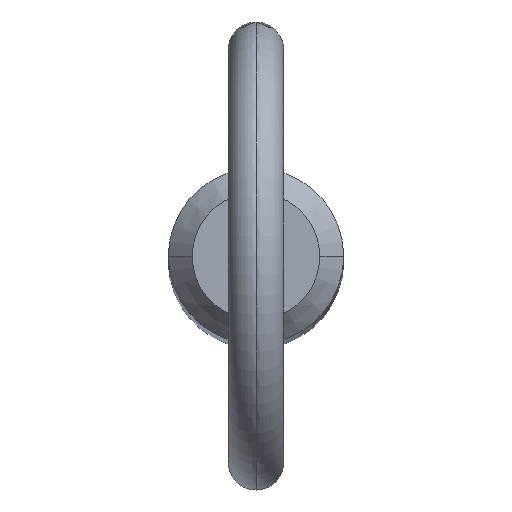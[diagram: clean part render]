
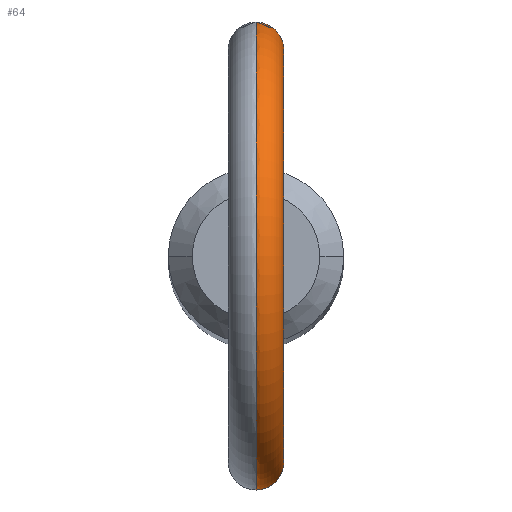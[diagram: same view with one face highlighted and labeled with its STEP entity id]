
A CAD part, top view. The second image highlights one B-rep face of the part: STEP entity #64.
In plain terms, the highlighted toroidal (fillet/blend) face has major radius 11.2 mm and minor radius 1.5 mm.
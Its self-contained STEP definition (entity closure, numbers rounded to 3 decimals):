
#3 = CARTESIAN_POINT ( 'NONE',  ( 0., -4.76, 135.526 ) ) ;
#4 = FACE_OUTER_BOUND ( 'NONE', #169, .T. ) ;
#6 = CARTESIAN_POINT ( 'NONE',  ( 0., 4.76, 138.848 ) ) ;
#7 = EDGE_CURVE ( 'NONE', #252, #464, #39, .T. ) ;
#9 = CARTESIAN_POINT ( 'NONE',  ( 0.415, 4.745, 138.788 ) ) ;
#11 = TOROIDAL_SURFACE ( 'NONE', #435, 11.2, 1.5 ) ;
#13 = CARTESIAN_POINT ( 'NONE',  ( 0., 0., 147.3 ) ) ;
#15 = CARTESIAN_POINT ( 'NONE',  ( 1.292, 4.582, 137.944 ) ) ;
#17 = CARTESIAN_POINT ( 'NONE',  ( 0.411, 4.743, 135.577 ) ) ;
#18 = CARTESIAN_POINT ( 'NONE',  ( 0.795, 4.697, 135.728 ) ) ;
#19 = AXIS2_PLACEMENT_3D ( 'NONE', #267, #434, #74 ) ;
#24 = CIRCLE ( 'NONE', #19, 12.7 ) ;
#33 = CARTESIAN_POINT ( 'NONE',  ( 0.797, -4.697, 135.729 ) ) ;
#37 = CARTESIAN_POINT ( 'NONE',  ( 1.503, -4.517, 137.04 ) ) ;
#39 = B_SPLINE_CURVE_WITH_KNOTS ( 'NONE', 3,
 ( #357, #439, #527, #393, #521, #230, #398, #152, #269, #272, #40, #479, #309, #158, #192, #37, #519, #264, #44, #312, #480, #355, #227, #350, #33, #302, #78, #121, #394, #523 ),
 .UNSPECIFIED., .F., .F.,
 ( 4, 2, 2, 2, 2, 2, 2, 2, 2, 2, 2, 2, 2, 2, 4 ),
 ( 0.004, 0.005, 0.005, 0.005, 0.006, 0.006, 0.007, 0.007, 0.007, 0.007, 0.008, 0.008, 0.009, 0.009, 0.009 ),
 .UNSPECIFIED. ) ;
#40 = CARTESIAN_POINT ( 'NONE',  ( 1.293, -4.582, 137.942 ) ) ;
#44 = CARTESIAN_POINT ( 'NONE',  ( 1.45, -4.534, 136.628 ) ) ;
#51 = CARTESIAN_POINT ( 'NONE',  ( 0.511, 4.733, 135.608 ) ) ;
#64 = ADVANCED_FACE ( 'NONE', ( #4 ), #11, .T. ) ;
#74 = DIRECTION ( 'NONE',  ( 0., 0., -1. ) ) ;
#78 = CARTESIAN_POINT ( 'NONE',  ( 0.411, -4.743, 135.577 ) ) ;
#92 = CARTESIAN_POINT ( 'NONE',  ( 0., 0., 147.3 ) ) ;
#97 = CARTESIAN_POINT ( 'NONE',  ( 0.685, 4.711, 138.636 ) ) ;
#101 = CARTESIAN_POINT ( 'NONE',  ( 1.508, 4.515, 136.937 ) ) ;
#102 = CARTESIAN_POINT ( 'NONE',  ( 0.104, 4.76, 135.526 ) ) ;
#121 = CARTESIAN_POINT ( 'NONE',  ( 0.208, -4.757, 135.536 ) ) ;
#131 = CARTESIAN_POINT ( 'NONE',  ( 0.996, 4.655, 138.366 ) ) ;
#143 = ORIENTED_EDGE ( 'NONE', *, *, #323, .F. ) ;
#152 = CARTESIAN_POINT ( 'NONE',  ( 0.925, -4.67, 138.439 ) ) ;
#158 = CARTESIAN_POINT ( 'NONE',  ( 1.478, -4.525, 137.352 ) ) ;
#168 = CARTESIAN_POINT ( 'NONE',  ( 0.207, 4.757, 135.536 ) ) ;
#169 = EDGE_LOOP ( 'NONE', ( #143, #526, #294, #503 ) ) ;
#170 = CARTESIAN_POINT ( 'NONE',  ( 0.968, 4.663, 135.849 ) ) ;
#172 = CARTESIAN_POINT ( 'NONE',  ( 1.188, 4.611, 138.127 ) ) ;
#192 = CARTESIAN_POINT ( 'NONE',  ( 1.492, -4.52, 137.248 ) ) ;
#199 = CARTESIAN_POINT ( 'NONE',  ( 0., 4.76, 138.848 ) ) ;
#200 = CARTESIAN_POINT ( 'NONE',  ( 1.441, 4.537, 137.559 ) ) ;
#205 = CARTESIAN_POINT ( 'NONE',  ( 0.208, 4.76, 138.848 ) ) ;
#214 = EDGE_CURVE ( 'NONE', #261, #464, #24, .T. ) ;
#227 = CARTESIAN_POINT ( 'NONE',  ( 1.178, -4.613, 136.076 ) ) ;
#230 = CARTESIAN_POINT ( 'NONE',  ( 0.687, -4.711, 138.635 ) ) ;
#242 = CARTESIAN_POINT ( 'NONE',  ( 1.239, 4.596, 136.159 ) ) ;
#244 = DIRECTION ( 'NONE',  ( 0., 0., -1. ) ) ;
#252 = VERTEX_POINT ( 'NONE', #391 ) ;
#261 = VERTEX_POINT ( 'NONE', #388 ) ;
#264 = CARTESIAN_POINT ( 'NONE',  ( 1.473, -4.526, 136.731 ) ) ;
#267 = CARTESIAN_POINT ( 'NONE',  ( 0., 0., 147.3 ) ) ;
#269 = CARTESIAN_POINT ( 'NONE',  ( 0.997, -4.655, 138.364 ) ) ;
#272 = CARTESIAN_POINT ( 'NONE',  ( 1.19, -4.611, 138.124 ) ) ;
#276 = DIRECTION ( 'NONE',  ( 1., 0., 0. ) ) ;
#277 = CARTESIAN_POINT ( 'NONE',  ( 0., 4.76, 135.526 ) ) ;
#294 = ORIENTED_EDGE ( 'NONE', *, *, #7, .F. ) ;
#302 = CARTESIAN_POINT ( 'NONE',  ( 0.512, -4.733, 135.608 ) ) ;
#305 = CIRCLE ( 'NONE', #418, 9.7 ) ;
#309 = CARTESIAN_POINT ( 'NONE',  ( 1.434, -4.539, 137.554 ) ) ;
#312 = CARTESIAN_POINT ( 'NONE',  ( 1.385, -4.554, 136.432 ) ) ;
#323 = EDGE_CURVE ( 'NONE', #261, #466, #475, .T. ) ;
#324 = CARTESIAN_POINT ( 'NONE',  ( 1.177, 4.613, 136.075 ) ) ;
#331 = CARTESIAN_POINT ( 'NONE',  ( 0.925, 4.67, 138.44 ) ) ;
#334 = CARTESIAN_POINT ( 'NONE',  ( 1.484, 4.523, 136.728 ) ) ;
#350 = CARTESIAN_POINT ( 'NONE',  ( 0.97, -4.662, 135.85 ) ) ;
#355 = CARTESIAN_POINT ( 'NONE',  ( 1.24, -4.596, 136.16 ) ) ;
#357 = CARTESIAN_POINT ( 'NONE',  ( 0., -4.76, 138.848 ) ) ;
#369 = CARTESIAN_POINT ( 'NONE',  ( 1.343, 4.567, 136.337 ) ) ;
#374 = CARTESIAN_POINT ( 'NONE',  ( 1.385, 4.554, 136.43 ) ) ;
#388 = CARTESIAN_POINT ( 'NONE',  ( 0., 4.76, 135.526 ) ) ;
#391 = CARTESIAN_POINT ( 'NONE',  ( 0., -4.76, 138.848 ) ) ;
#393 = CARTESIAN_POINT ( 'NONE',  ( 0.409, -4.743, 138.778 ) ) ;
#394 = CARTESIAN_POINT ( 'NONE',  ( 0.105, -4.76, 135.526 ) ) ;
#398 = CARTESIAN_POINT ( 'NONE',  ( 0.77, -4.698, 138.575 ) ) ;
#406 = CARTESIAN_POINT ( 'NONE',  ( 0.771, 4.698, 138.575 ) ) ;
#418 = AXIS2_PLACEMENT_3D ( 'NONE', #13, #458, #244 ) ;
#434 = DIRECTION ( 'NONE',  ( 1., 0., 0. ) ) ;
#435 = AXIS2_PLACEMENT_3D ( 'NONE', #92, #276, #448 ) ;
#439 = CARTESIAN_POINT ( 'NONE',  ( 0.104, -4.76, 138.848 ) ) ;
#448 = DIRECTION ( 'NONE',  ( 0., 0., -1. ) ) ;
#458 = DIRECTION ( 'NONE',  ( 1., 0., 0. ) ) ;
#464 = VERTEX_POINT ( 'NONE', #3 ) ;
#466 = VERTEX_POINT ( 'NONE', #6 ) ;
#474 = EDGE_CURVE ( 'NONE', #466, #252, #305, .T. ) ;
#475 = B_SPLINE_CURVE_WITH_KNOTS ( 'NONE', 3,
 ( #277, #102, #168, #17, #51, #18, #170, #324, #242, #369, #374, #334, #101, #497, #200, #15, #172, #131, #331, #406, #97, #9, #205, #199 ),
 .UNSPECIFIED., .F., .F.,
 ( 4, 2, 2, 2, 2, 2, 2, 2, 2, 2, 2, 4 ),
 ( 0.001, 0.001, 0.001, 0.002, 0.002, 0.002, 0.003, 0.004, 0.004, 0.005, 0.005, 0.006 ),
 .UNSPECIFIED. ) ;
#479 = CARTESIAN_POINT ( 'NONE',  ( 1.404, -4.548, 137.653 ) ) ;
#480 = CARTESIAN_POINT ( 'NONE',  ( 1.344, -4.567, 136.339 ) ) ;
#497 = CARTESIAN_POINT ( 'NONE',  ( 1.487, 4.522, 137.353 ) ) ;
#503 = ORIENTED_EDGE ( 'NONE', *, *, #474, .F. ) ;
#519 = CARTESIAN_POINT ( 'NONE',  ( 1.499, -4.518, 136.937 ) ) ;
#521 = CARTESIAN_POINT ( 'NONE',  ( 0.506, -4.734, 138.737 ) ) ;
#523 = CARTESIAN_POINT ( 'NONE',  ( 0., -4.76, 135.526 ) ) ;
#526 = ORIENTED_EDGE ( 'NONE', *, *, #214, .T. ) ;
#527 = CARTESIAN_POINT ( 'NONE',  ( 0.209, -4.756, 138.834 ) ) ;
